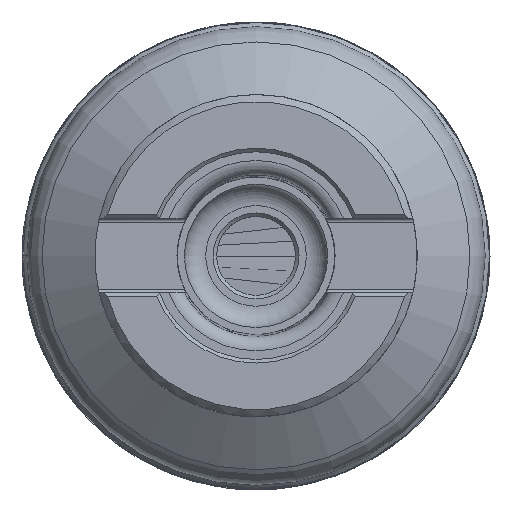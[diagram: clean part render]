
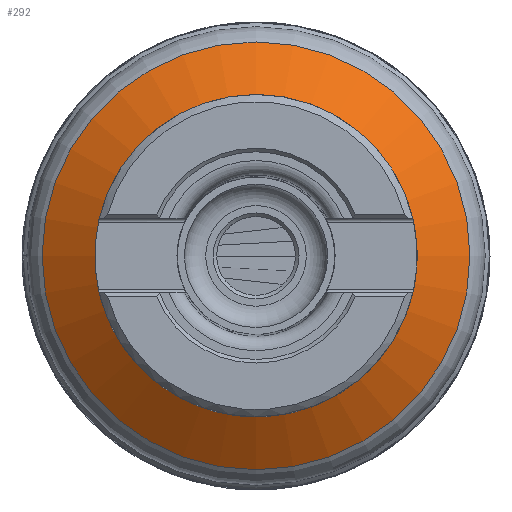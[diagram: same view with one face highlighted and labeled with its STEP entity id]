
A CAD part, top view. The second image highlights one B-rep face of the part: STEP entity #292.
In plain terms, the highlighted conical face has half-angle 55.008 degrees and reference radius 22 mm.
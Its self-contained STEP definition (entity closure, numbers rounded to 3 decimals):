
#152=CONICAL_SURFACE('',#1014,22.,55.008);
#213=FACE_BOUND('',#402,.T.);
#214=FACE_BOUND('',#403,.T.);
#292=ADVANCED_FACE('',(#213,#214),#152,.T.);
#402=EDGE_LOOP('',(#579));
#403=EDGE_LOOP('',(#580));
#579=ORIENTED_EDGE('',*,*,#867,.T.);
#580=ORIENTED_EDGE('',*,*,#868,.T.);
#781=VERTEX_POINT('',#1509);
#782=VERTEX_POINT('',#1511);
#867=EDGE_CURVE('',#781,#781,#953,.T.);
#868=EDGE_CURVE('',#782,#782,#954,.T.);
#953=CIRCLE('',#1012,22.427);
#954=CIRCLE('',#1013,29.867);
#1012=AXIS2_PLACEMENT_3D('',#1508,#1150,#1151);
#1013=AXIS2_PLACEMENT_3D('',#1510,#1152,#1153);
#1014=AXIS2_PLACEMENT_3D('',#1512,#1154,#1155);
#1150=DIRECTION('',(0.,0.,-1.));
#1151=DIRECTION('',(-1.,0.,0.));
#1152=DIRECTION('',(0.,0.,1.));
#1153=DIRECTION('',(1.,0.,0.));
#1154=DIRECTION('',(0.,0.,-1.));
#1155=DIRECTION('',(1.,0.,0.));
#1508=CARTESIAN_POINT('',(0.,0.,-13.299));
#1509=CARTESIAN_POINT('',(-22.427,0.,-13.299));
#1510=CARTESIAN_POINT('',(0.,0.,-18.507));
#1511=CARTESIAN_POINT('',(29.867,0.,-18.507));
#1512=CARTESIAN_POINT('',(0.,0.,-13.));
